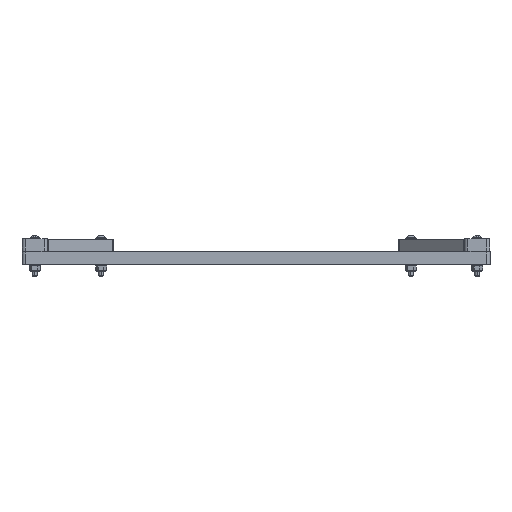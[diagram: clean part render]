
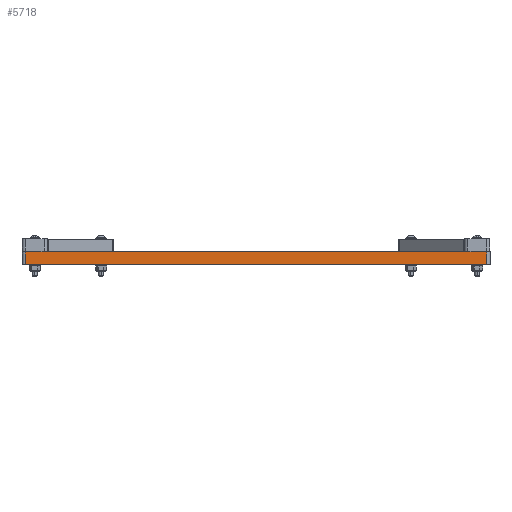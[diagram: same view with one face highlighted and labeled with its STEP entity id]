
A CAD part, top view. The second image highlights one B-rep face of the part: STEP entity #5718.
In plain terms, the highlighted planar face has unit normal (0, 0, 1).
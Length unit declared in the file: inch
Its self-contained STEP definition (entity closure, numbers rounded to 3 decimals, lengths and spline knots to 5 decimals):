
#331 = DIRECTION ( 'NONE',  ( 0., 0., -1. ) ) ;
#349 = ORIENTED_EDGE ( 'NONE', *, *, #4311, .T. ) ;
#770 = DIRECTION ( 'NONE',  ( 0., -1., 0. ) ) ;
#791 = DIRECTION ( 'NONE',  ( 0., 1., 0. ) ) ;
#902 = AXIS2_PLACEMENT_3D ( 'NONE', #4752, #331, #5802 ) ;
#1044 = VERTEX_POINT ( 'NONE', #1672 ) ;
#1134 = VECTOR ( 'NONE', #770, 39.37008 ) ;
#1168 = EDGE_LOOP ( 'NONE', ( #3989, #349, #1573, #2011 ) ) ;
#1228 = CARTESIAN_POINT ( 'NONE',  ( 9.25, 0., 1.375 ) ) ;
#1302 = LINE ( 'NONE', #5809, #1134 ) ;
#1573 = ORIENTED_EDGE ( 'NONE', *, *, #2807, .T. ) ;
#1595 = EDGE_CURVE ( 'NONE', #5870, #3958, #3708, .T. ) ;
#1672 = CARTESIAN_POINT ( 'NONE',  ( 9.125, 0., 1.375 ) ) ;
#2011 = ORIENTED_EDGE ( 'NONE', *, *, #3647, .T. ) ;
#2065 = DIRECTION ( 'NONE',  ( 1., 0., 0. ) ) ;
#2601 = VECTOR ( 'NONE', #2065, 39.37008 ) ;
#2760 = VECTOR ( 'NONE', #791, 39.37008 ) ;
#2807 = EDGE_CURVE ( 'NONE', #4181, #1044, #4548, .T. ) ;
#3609 = CARTESIAN_POINT ( 'NONE',  ( 9.125, 0.5, 1.375 ) ) ;
#3647 = EDGE_CURVE ( 'NONE', #1044, #3958, #4200, .T. ) ;
#3708 = LINE ( 'NONE', #4296, #2601 ) ;
#3958 = VERTEX_POINT ( 'NONE', #4694 ) ;
#3989 = ORIENTED_EDGE ( 'NONE', *, *, #1595, .F. ) ;
#4028 = CARTESIAN_POINT ( 'NONE',  ( -9.125, 0., 1.375 ) ) ;
#4181 = VERTEX_POINT ( 'NONE', #4028 ) ;
#4200 = LINE ( 'NONE', #3609, #2760 ) ;
#4296 = CARTESIAN_POINT ( 'NONE',  ( 9.25, 0.5, 1.375 ) ) ;
#4311 = EDGE_CURVE ( 'NONE', #5870, #4181, #1302, .T. ) ;
#4548 = LINE ( 'NONE', #1228, #6921 ) ;
#4694 = CARTESIAN_POINT ( 'NONE',  ( 9.125, 0.5, 1.375 ) ) ;
#4752 = CARTESIAN_POINT ( 'NONE',  ( 9.25, 0.5, 1.375 ) ) ;
#5050 = DIRECTION ( 'NONE',  ( 1., 0., 0. ) ) ;
#5255 = PLANE ( 'NONE',  #902 ) ;
#5718 = ADVANCED_FACE ( 'NONE', ( #6993 ), #5255, .F. ) ;
#5802 = DIRECTION ( 'NONE',  ( -1., 0., 0. ) ) ;
#5809 = CARTESIAN_POINT ( 'NONE',  ( -9.125, 0.5, 1.375 ) ) ;
#5870 = VERTEX_POINT ( 'NONE', #5943 ) ;
#5943 = CARTESIAN_POINT ( 'NONE',  ( -9.125, 0.5, 1.375 ) ) ;
#6921 = VECTOR ( 'NONE', #5050, 39.37008 ) ;
#6993 = FACE_OUTER_BOUND ( 'NONE', #1168, .T. ) ;
